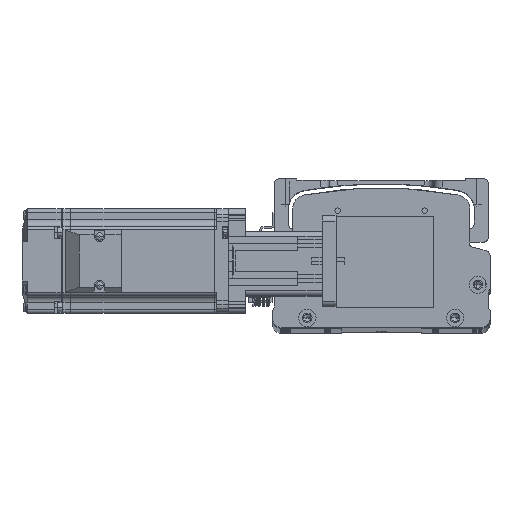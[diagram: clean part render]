
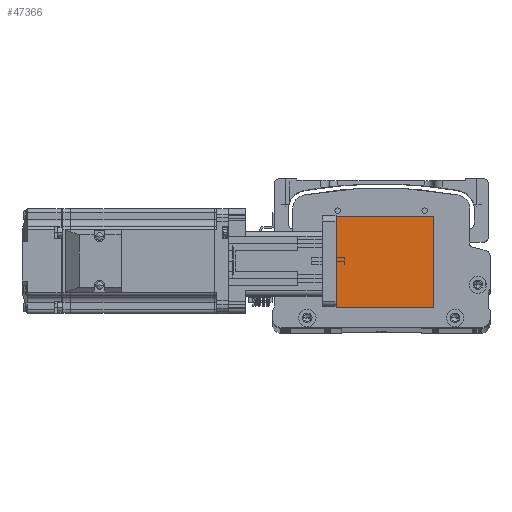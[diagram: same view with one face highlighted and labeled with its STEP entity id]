
A CAD part, top view. The second image highlights one B-rep face of the part: STEP entity #47366.
In plain terms, the highlighted planar face has unit normal (0, 0, 1) as drawn and (-1, 0, 0) by its records, which use the part's own axes.
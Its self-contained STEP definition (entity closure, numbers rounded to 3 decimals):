
#245 = LINE ( 'NONE', #58927, #12251 ) ;
#2019 = ORIENTED_EDGE ( 'NONE', *, *, #22556, .T. ) ;
#3266 = FACE_OUTER_BOUND ( 'NONE', #13230, .T. ) ;
#4100 = CARTESIAN_POINT ( 'NONE',  ( -31.5, -26., 0. ) ) ;
#5138 = CARTESIAN_POINT ( 'NONE',  ( -31.5, 26., 56. ) ) ;
#6569 = CARTESIAN_POINT ( 'NONE',  ( -31.5, 26., 56. ) ) ;
#11179 = DIRECTION ( 'NONE',  ( 0., 0., -1. ) ) ;
#12251 = VECTOR ( 'NONE', #23231, 1000. ) ;
#13230 = EDGE_LOOP ( 'NONE', ( #51214, #53735, #51731, #2019 ) ) ;
#15147 = VERTEX_POINT ( 'NONE', #43168 ) ;
#15620 = DIRECTION ( 'NONE',  ( 0., 0., -1. ) ) ;
#16142 = CARTESIAN_POINT ( 'NONE',  ( -31.5, -26., 0. ) ) ;
#17632 = VERTEX_POINT ( 'NONE', #60209 ) ;
#21084 = VECTOR ( 'NONE', #15620, 1000. ) ;
#22556 = EDGE_CURVE ( 'NONE', #32675, #17632, #61734, .T. ) ;
#23231 = DIRECTION ( 'NONE',  ( 0., 0., -1. ) ) ;
#24420 = AXIS2_PLACEMENT_3D ( 'NONE', #31438, #41683, #11179 ) ;
#26324 = PLANE ( 'NONE',  #24420 ) ;
#28954 = CARTESIAN_POINT ( 'NONE',  ( -31.5, -26., 56. ) ) ;
#31438 = CARTESIAN_POINT ( 'NONE',  ( -31.5, -26., 56. ) ) ;
#31530 = VERTEX_POINT ( 'NONE', #16142 ) ;
#32675 = VERTEX_POINT ( 'NONE', #6569 ) ;
#34588 = DIRECTION ( 'NONE',  ( 0., -1., 0. ) ) ;
#41683 = DIRECTION ( 'NONE',  ( 1., 0., 0. ) ) ;
#43168 = CARTESIAN_POINT ( 'NONE',  ( -31.5, -26., 56. ) ) ;
#43415 = EDGE_CURVE ( 'NONE', #15147, #31530, #245, .T. ) ;
#43872 = VECTOR ( 'NONE', #59738, 1000. ) ;
#44828 = VECTOR ( 'NONE', #34588, 1000. ) ;
#46411 = LINE ( 'NONE', #4100, #44828 ) ;
#47366 = ADVANCED_FACE ( 'NONE', ( #3266 ), #26324, .F. ) ;
#51214 = ORIENTED_EDGE ( 'NONE', *, *, #63357, .T. ) ;
#51731 = ORIENTED_EDGE ( 'NONE', *, *, #56201, .F. ) ;
#53735 = ORIENTED_EDGE ( 'NONE', *, *, #43415, .F. ) ;
#56201 = EDGE_CURVE ( 'NONE', #32675, #15147, #57504, .T. ) ;
#57504 = LINE ( 'NONE', #28954, #43872 ) ;
#58927 = CARTESIAN_POINT ( 'NONE',  ( -31.5, -26., 56. ) ) ;
#59738 = DIRECTION ( 'NONE',  ( 0., -1., 0. ) ) ;
#60209 = CARTESIAN_POINT ( 'NONE',  ( -31.5, 26., 0. ) ) ;
#61734 = LINE ( 'NONE', #5138, #21084 ) ;
#63357 = EDGE_CURVE ( 'NONE', #17632, #31530, #46411, .T. ) ;
